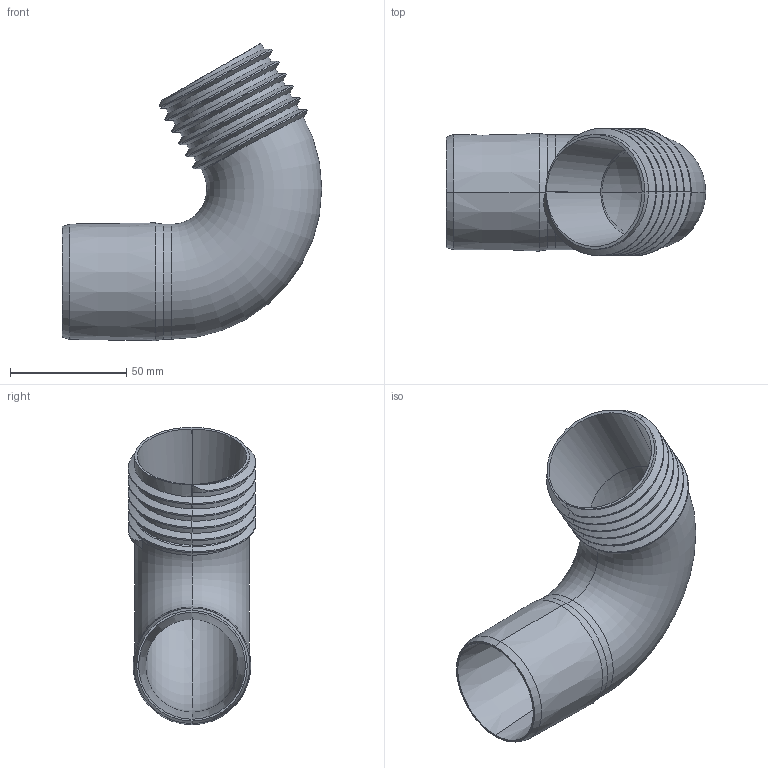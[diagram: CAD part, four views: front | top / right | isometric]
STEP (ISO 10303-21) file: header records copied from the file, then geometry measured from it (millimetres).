
FILE_DESCRIPTION (( 'STEP AP214' ), '1' );
FILE_NAME ('dust absorber (cyclone) adapter to 50mm vacuum hose.STEP', '2025-12-15T21:04:55', ( '' ), ( '' ), 'SwSTEP 2.0', 'SolidWorks 2023', '' );
FILE_SCHEMA (( 'AUTOMOTIVE_DESIGN' ));
Length unit declared in the file: millimetre
Products named in the file (1): dust absorber (cyclone) adapter to 50mm vacuum hose
Bounding box: 111.75 x 54.91 x 128.04 mm (x, y, z)
Volume: 101283.1 mm3; surface area: 54080.6 mm2
Topology: 2 solids, 2 shells, 82 faces, 242 edges, 164 vertices
Faces by surface type: bspline 45, cylinder 17, plane 8, cone 8, torus 4
Entity records: 20682 total; most frequent: CARTESIAN_POINT 18956, ORIENTED_EDGE 484, EDGE_CURVE 242, DIRECTION 190, VERTEX_POINT 164, B_SPLINE_CURVE_WITH_KNOTS 110, ADVANCED_FACE 82, FACE_OUTER_BOUND 82
